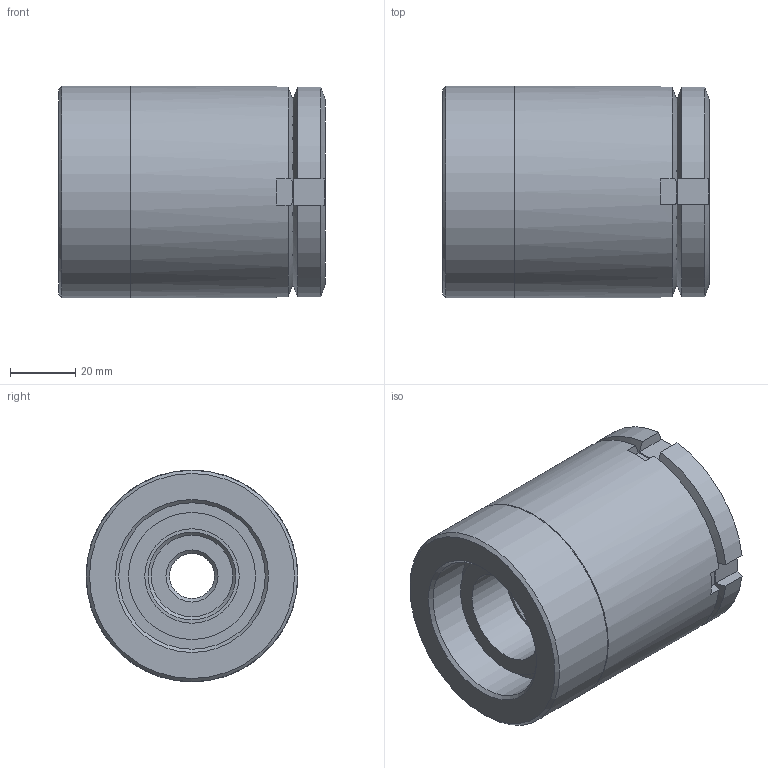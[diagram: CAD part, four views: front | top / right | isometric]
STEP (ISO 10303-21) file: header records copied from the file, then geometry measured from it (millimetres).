
FILE_DESCRIPTION( ( 'STEP AP203' ), '1' );
FILE_NAME( 'C:/Temp/Ganter_Step_05_03_2020/data/3_2/gn360/gn360_ni/Stainless Steel-Levelling set GN 360-65-M16-112-A-NI (0-0).stp', '2020-03-13T05:42:04', ( 'License CC BY-ND 4.0' ), ( 'CADENAS' ), ' ', 'PARTsolutions', ' ' );
FILE_SCHEMA( ( 'CONFIG_CONTROL_DESIGN' ) );
Length unit declared in the file: millimetre
Products named in the file (4): Stainless Steel-Levelling set GN 360-65-M16-112-A-NI (0-0); _Stainless Steel-Levelling set GN 360-65-M16-112-A-NI (0-0)-1; _Stainless Steel-Levelling set GN 360-65-M16-112-A-NI (0-0)-2; _Stainless Steel-Levelling set GN 360-65-M16-112-A-NI (0-0)-3
Assembly tree (3 placements, depth 2):
  Stainless Steel-Levelling set GN 360-65-M16-112-A-NI (0-0)
    _Stainless Steel-Levelling set GN 360-65-M16-112-A-NI (0-0)-1
    _Stainless Steel-Levelling set GN 360-65-M16-112-A-NI (0-0)-2
    _Stainless Steel-Levelling set GN 360-65-M16-112-A-NI (0-0)-3
Bounding box: 82 x 65 x 65 mm (x, y, z)
Volume: 220235.1 mm3; surface area: 54212.5 mm2
Topology: 3 solids, 3 shells, 72 faces, 167 edges, 107 vertices
Faces by surface type: plane 40, cylinder 17, cone 12, sphere 2, torus 1
Full cylindrical faces by diameter (mm): 13.835 x1, 25 x1, 29 x1, 32 x1, 38 x1, 39 x1, 43 x1, 43.376 x1, 45 x2, 45.5 x1, 65 x2
Entity records: 2137 total; most frequent: CARTESIAN_POINT 516, DIRECTION 304, ORIENTED_EDGE 268, EDGE_CURVE 134, AXIS2_PLACEMENT_3D 130, EDGE_LOOP 112, VERTEX_POINT 102, FACE_OUTER_BOUND 88
